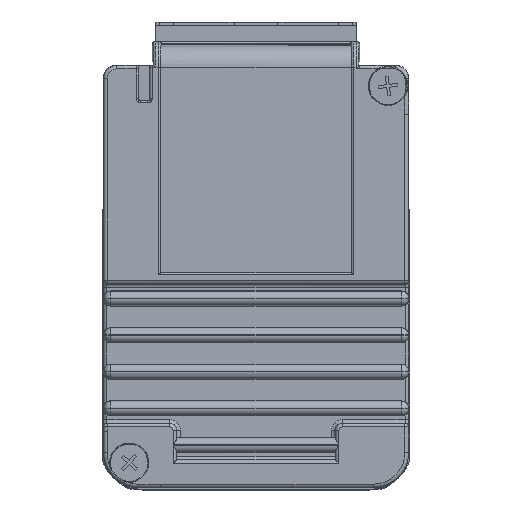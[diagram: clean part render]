
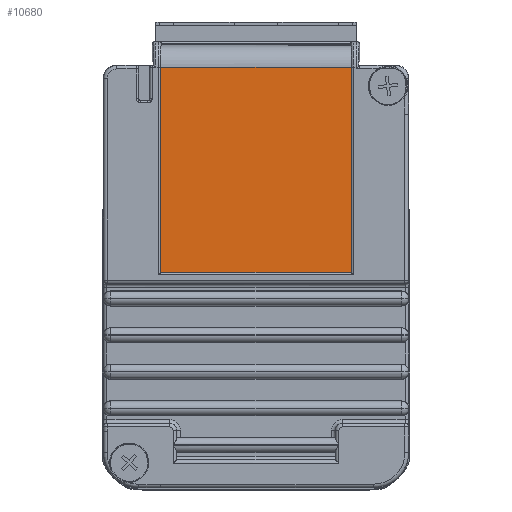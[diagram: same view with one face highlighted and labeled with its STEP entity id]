
A CAD part, top view. The second image highlights one B-rep face of the part: STEP entity #10680.
In plain terms, the highlighted planar face has unit normal (0, 0, 1).
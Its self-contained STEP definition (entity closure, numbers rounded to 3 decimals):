
#847 = VECTOR ( 'NONE', #24603, 1000. ) ;
#1429 = DIRECTION ( 'NONE',  ( 0., -1., 0. ) ) ;
#1541 = CARTESIAN_POINT ( 'NONE',  ( 53.253, 36.552, 56.4 ) ) ;
#2087 = ORIENTED_EDGE ( 'NONE', *, *, #8753, .T. ) ;
#2299 = CARTESIAN_POINT ( 'NONE',  ( 13., 37., 56.4 ) ) ;
#5307 = VERTEX_POINT ( 'NONE', #12591 ) ;
#6057 = DIRECTION ( 'NONE',  ( -1., 0., 0. ) ) ;
#6891 = ORIENTED_EDGE ( 'NONE', *, *, #17677, .T. ) ;
#7128 = VERTEX_POINT ( 'NONE', #10856 ) ;
#8581 = VERTEX_POINT ( 'NONE', #11957 ) ;
#8753 = EDGE_CURVE ( 'NONE', #25749, #5307, #18691, .T. ) ;
#9780 = ORIENTED_EDGE ( 'NONE', *, *, #21433, .T. ) ;
#10481 = PLANE ( 'NONE',  #27686 ) ;
#10680 = ADVANCED_FACE ( 'NONE', ( #27821 ), #10481, .F. ) ;
#10822 = LINE ( 'NONE', #2299, #21438 ) ;
#10856 = CARTESIAN_POINT ( 'NONE',  ( 13., 36.552, 56.4 ) ) ;
#11860 = ORIENTED_EDGE ( 'NONE', *, *, #26574, .F. ) ;
#11957 = CARTESIAN_POINT ( 'NONE',  ( 13., 8.552, 56.4 ) ) ;
#12509 = VECTOR ( 'NONE', #27720, 1000. ) ;
#12591 = CARTESIAN_POINT ( 'NONE',  ( -13., 8.552, 56.4 ) ) ;
#14789 = LINE ( 'NONE', #1541, #12509 ) ;
#16138 = LINE ( 'NONE', #27179, #847 ) ;
#17178 = DIRECTION ( 'NONE',  ( 0., 0., -1. ) ) ;
#17652 = CARTESIAN_POINT ( 'NONE',  ( -13., 36.552, 56.4 ) ) ;
#17677 = EDGE_CURVE ( 'NONE', #7128, #25749, #14789, .T. ) ;
#18691 = LINE ( 'NONE', #20858, #20222 ) ;
#19479 = EDGE_LOOP ( 'NONE', ( #11860, #6891, #2087, #9780 ) ) ;
#19837 = DIRECTION ( 'NONE',  ( 0., -1., 0. ) ) ;
#20222 = VECTOR ( 'NONE', #1429, 1000. ) ;
#20858 = CARTESIAN_POINT ( 'NONE',  ( -13., 37., 56.4 ) ) ;
#21433 = EDGE_CURVE ( 'NONE', #5307, #8581, #16138, .T. ) ;
#21438 = VECTOR ( 'NONE', #19837, 1000. ) ;
#24603 = DIRECTION ( 'NONE',  ( 1., 0., 0. ) ) ;
#25749 = VERTEX_POINT ( 'NONE', #17652 ) ;
#25952 = CARTESIAN_POINT ( 'NONE',  ( 53.253, 37., 56.4 ) ) ;
#26574 = EDGE_CURVE ( 'NONE', #7128, #8581, #10822, .T. ) ;
#27179 = CARTESIAN_POINT ( 'NONE',  ( -13., 8.552, 56.4 ) ) ;
#27686 = AXIS2_PLACEMENT_3D ( 'NONE', #25952, #17178, #6057 ) ;
#27720 = DIRECTION ( 'NONE',  ( -1., 0., 0. ) ) ;
#27821 = FACE_OUTER_BOUND ( 'NONE', #19479, .T. ) ;
